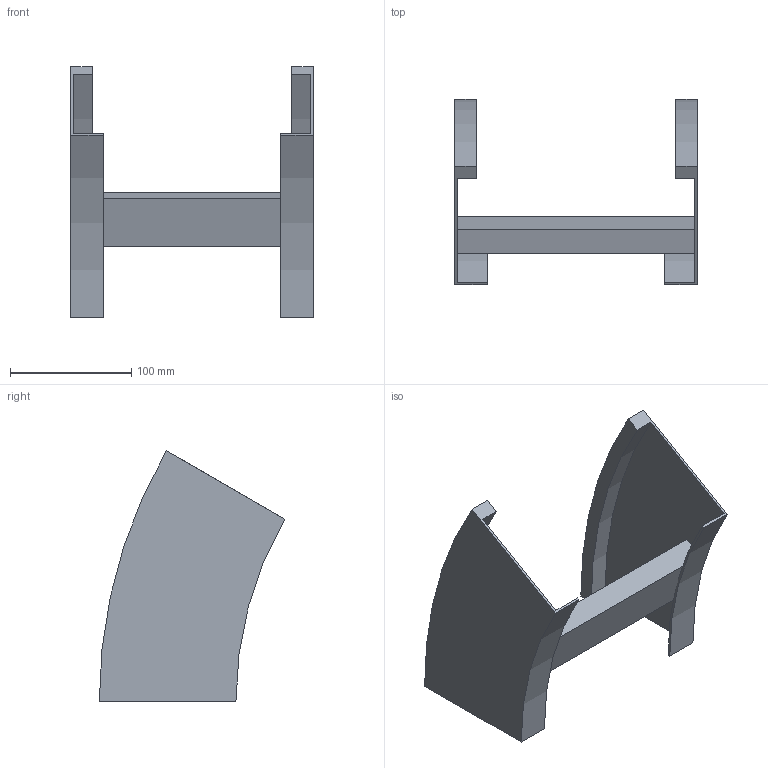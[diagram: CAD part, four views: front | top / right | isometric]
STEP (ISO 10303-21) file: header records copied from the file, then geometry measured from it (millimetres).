
FILE_DESCRIPTION (( 'STEP AP214' ), '1' );
FILE_NAME ('B2_35B3J200.step', '2025-02-21T14:48:29', ( '' ), ( '' ), 'SwSTEP 2.0', 'SolidWorks 2023', '' );
FILE_SCHEMA (( 'AUTOMOTIVE_DESIGN' ));
Length unit declared in the file: millimetre
Products named in the file (3): B2_LONGH.DISCESA_30°_H112.5_R300; TRAVERSINO_200; B2_35B3J200
Assembly tree (3 placements, depth 2):
  B2_35B3J200
    B2_LONGH.DISCESA_30°_H112.5_R300  x2
    TRAVERSINO_200
Bounding box: 200 x 152.69 x 206.25 mm (x, y, z)
Volume: 340191.4 mm3; surface area: 142018 mm2
Topology: 3 solids, 3 shells, 26 faces, 60 edges, 40 vertices
Faces by surface type: plane 18, cylinder 8
Entity records: 544 total; most frequent: DIRECTION 88, CARTESIAN_POINT 82, ORIENTED_EDGE 72, EDGE_CURVE 36, AXIS2_PLACEMENT_3D 30, LINE 28, VECTOR 28, VERTEX_POINT 24
